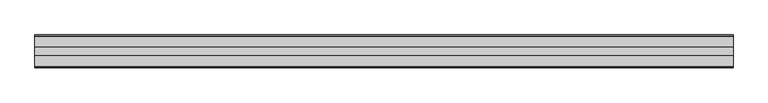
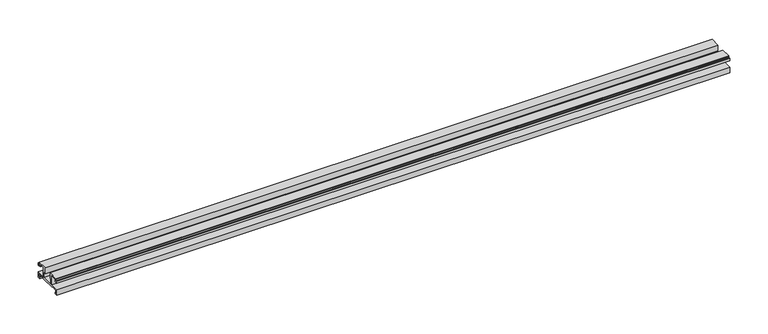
"""IFC4 building model written with IfcOpenShell, lengths in millimetres: proxy geometry, Weiku - Montante - Acoplamento vidro : Weiku - Montante - Acoplamento vidro."""

from ifc_helpers import new_model, si_unit, frame, origin, place, context, project, spatial, polyline, outline, extrude, source, transform, mapped, element, save


def generic_models_79f5a235(model_context):
    return source(origin(), model_context, "Body", "SweptSolid", [
        extrude(outline(polyline([(-35.405, 5.1494), (-35.405, 6.8004), (-45.741, 6.8004), (-45.741, 2.6094), (-43.8784, 2.6094), (-43.8784, 0.0), (-47.9014508, 0.0), (-47.9014508, 8.79), (-34.946, 8.79), (-34.946, 23.3104), (-43.5397, 23.3104), (-43.5397, 19.204), (-47.9, 19.204), (-47.9, 22.8024), (-46.9264, 22.8024), (-46.9264, 20.3894), (-44.725, 20.3894), (-44.725, 23.9454), (-45.5264504, 23.9454), (-45.5264504, 25.3), (-30.4164, 25.3), (-30.4164, 16.283), (-32.4484, 16.283), (-32.4484, 8.8), (-15.4516, 8.8), (-15.4516, 16.283), (-17.4836, 16.283), (-17.4836, 25.3), (-2.3735496, 25.3), (-2.3735496, 23.9454), (-3.175, 23.9454), (-3.175, 20.3894), (-0.9736, 20.3894), (-0.9736, 22.8024), (0.0, 22.8024), (0.0, 19.204), (-4.3603, 19.204), (-4.3603, 23.3104), (-12.954, 23.3104), (-12.954, 8.79), (0.0014508, 8.79), (0.0014508, 0.0), (-4.0216, 0.0), (-4.0216, 2.6094), (-2.159, 2.6094), (-2.159, 6.8004), (-12.495, 6.8004), (-12.495, 5.1494), (-35.405, 5.1494)])), frame((-505.675, 0.0, 0.0), z_axis=(1.0, 0.0, 0.0), x_axis=(0.0, 1.0, 0.0)), (0.0, 0.0, 1.0), 1011.35),
    ])


if __name__ == "__main__":
    model = new_model("IFC4")
    model_context = context("Model", 3, world=origin())
    ifc_project = project(units=[si_unit("LENGTHUNIT", "METRE", prefix="MILLI")], contexts=[model_context])
    site = spatial("IfcSite", under=ifc_project)
    building = spatial("IfcBuilding", under=site)
    placement = place(None, origin())
    generic_models_shape = generic_models_79f5a235(model_context)
    element("IfcBuildingElementProxy", 1, Name="Weiku - Montante - Acoplamento vidro : Weiku - Montante - Acoplamento vidro", ObjectType="Weiku - Montante - Acoplamento vidro : Weiku - Montante - Acoplamento vidro", at=placement, inside=building, context=model_context, shape_type="MappedRepresentation", body=[
        mapped(generic_models_shape, transform((0.0, 0.0, 0.0), x_axis=(1.0, 0.0, 0.0), y_axis=(0.0, 1.0, 0.0), z_axis=(0.0, 0.0, 1.0))),
    ])
    save(model, "model.ifc")
